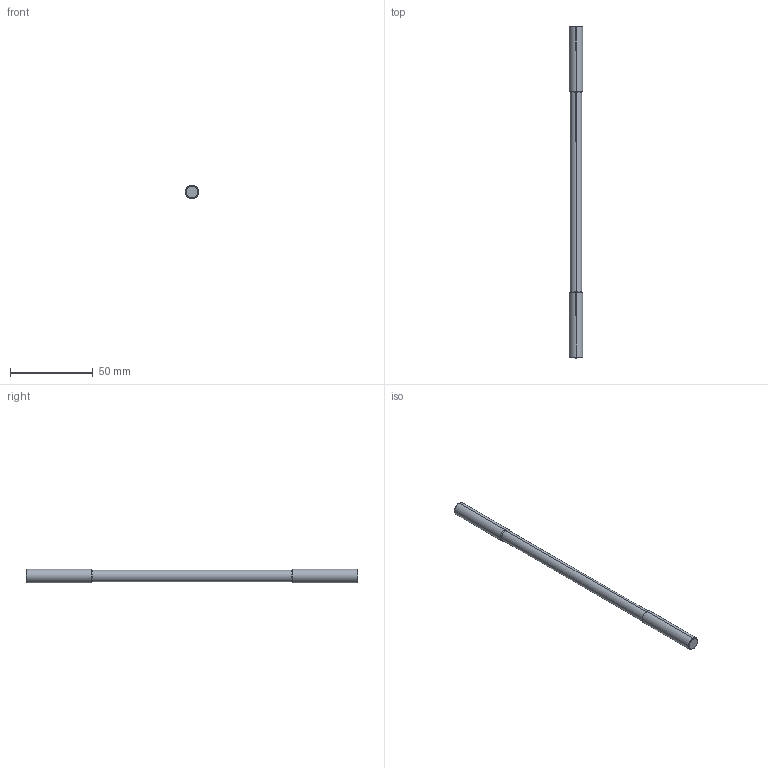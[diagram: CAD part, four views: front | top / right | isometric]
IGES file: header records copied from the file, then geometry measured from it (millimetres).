
Start section: SolidWorks IGES file using analytic representation for surfaces
Bounding box: 8 x 200 x 8 mm (x, y, z)
Surface area: 4742.9 mm2 (no closed solid volume)
Topology: 0 solids, 0 shells, 16 faces, 120 edges, 120 vertices
Faces by surface type: revolution 14, bspline 2
